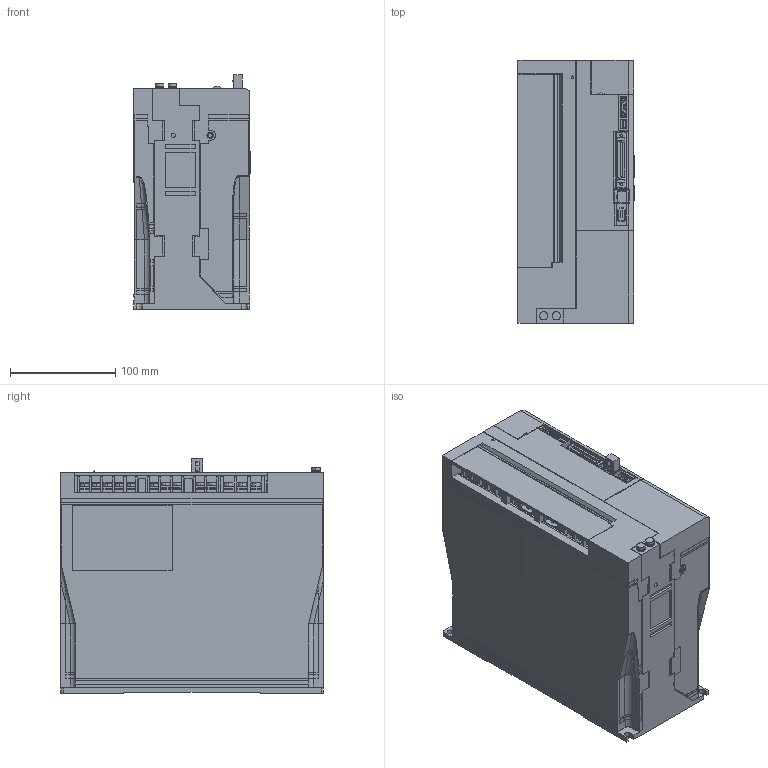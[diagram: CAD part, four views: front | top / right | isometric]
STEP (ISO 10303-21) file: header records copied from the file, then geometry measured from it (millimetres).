
FILE_DESCRIPTION (( 'STEP AP203' ), '1' );
FILE_NAME ('sgdv_330a0_a.STEP', '2008-07-07T04:50:26', ( 'T' ), ( 'T' ), 'SwSTEP 2.0', 'SolidWorks 2006052', '' );
FILE_SCHEMA (( 'CONFIG_CONTROL_DESIGN' ));
Length unit declared in the file: millimetre
Products named in the file (7): sgdv_330a0_a_cover3; sgdv_330a0_a_terminal; sgdv_330a0_a; sgdv_330a0_a_base; sgdv_330a0_a_cover; sgdv_330a0_a_cover2; sgdv_330a0_a_connector
Assembly tree (8 placements, depth 2):
  sgdv_330a0_a
    sgdv_330a0_a_cover2  x2
    sgdv_330a0_a_cover3
    sgdv_330a0_a_connector
    sgdv_330a0_a_terminal  x2
    sgdv_330a0_a_base
    sgdv_330a0_a_cover
Bounding box: 110.5 x 250 x 223 mm (x, y, z)
Volume: 5555375.9 mm3; surface area: 274248 mm2
Topology: 8 solids, 8 shells, 2244 faces, 5964 edges, 3928 vertices
Faces by surface type: plane 1898, cylinder 331, bspline 9, cone 4, torus 1, sphere 1
Entity records: 69210 total; most frequent: CARTESIAN_POINT 13214, ORIENTED_EDGE 11688, DIRECTION 10842, EDGE_CURVE 5844, VECTOR 5126, LINE 5126, VERTEX_POINT 3848, AXIS2_PLACEMENT_3D 2858
